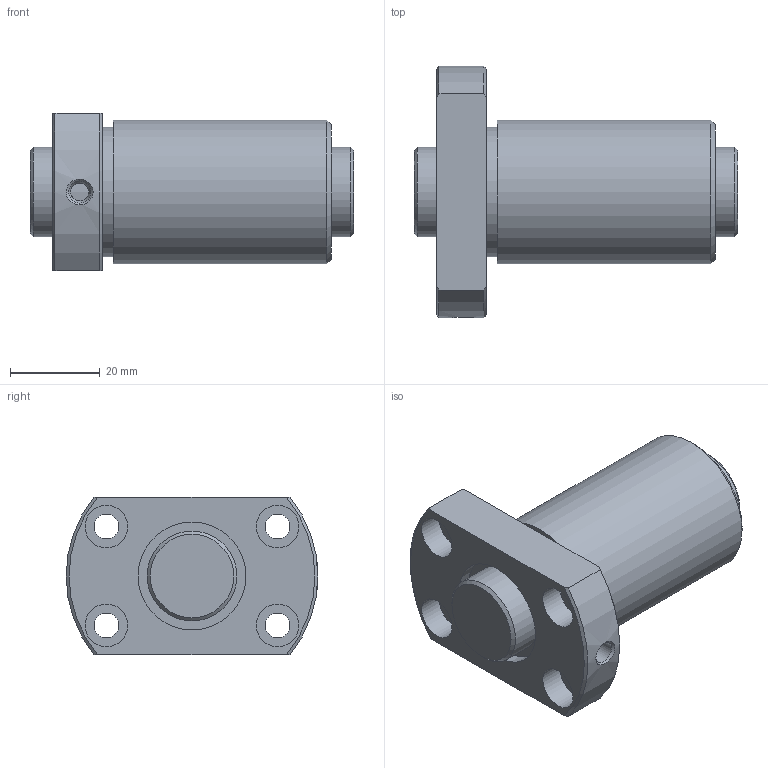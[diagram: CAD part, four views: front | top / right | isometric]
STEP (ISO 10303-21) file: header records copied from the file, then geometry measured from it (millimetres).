
FILE_DESCRIPTION(/* description */ ('STEP AP203'),/* implementation_level */ '2;1');
FILE_NAME(/* name */ 'DIK2004-6RRG0+72LC0_000',/* time_stamp */ '2025-01-13T09:46:52+01:00',/* author */ ('License CC BY-ND 4.0'),/* organization */ ('CADENAS'),/* preprocessor_version */ 'ST-DEVELOPER v19.3',/* originating_system */ 'PARTsolutions',/* authorisation */ ' ');
FILE_SCHEMA (('CONFIG_CONTROL_DESIGN'));
Length unit declared in the file: millimetre
Products named in the file (3): DIK2004-6RRG0+72LC0_000; DIK 2004-6RR07200 Shaft; DIK 2004-6RR Nut
Assembly tree (2 placements, depth 2):
  DIK2004-6RRG0+72LC0_000
    DIK 2004-6RR07200 Shaft
    DIK 2004-6RR Nut
Bounding box: 72 x 56 x 35 mm (x, y, z)
Volume: 60608.1 mm3; surface area: 20230.7 mm2
Topology: 2 solids, 2 shells, 41 faces, 83 edges, 54 vertices
Faces by surface type: cylinder 18, plane 14, cone 9
Full cylindrical faces by diameter (mm): 4 x1, 4.917 x1, 5.5 x4, 9.5 x4, 20 x2, 24 x2, 28.8 x1, 32 x1
Entity records: 1087 total; most frequent: CARTESIAN_POINT 200, DIRECTION 180, ORIENTED_EDGE 120, AXIS2_PLACEMENT_3D 86, EDGE_LOOP 82, FACE_BOUND 82, EDGE_CURVE 60, VERTEX_POINT 52
